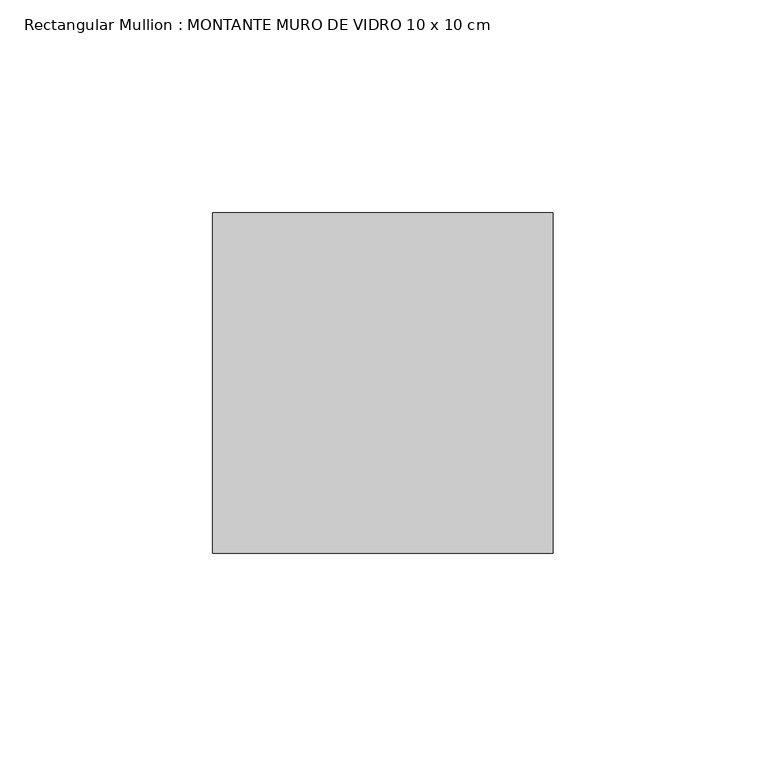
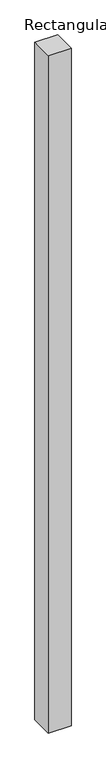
"""IFC4 building model written with IfcOpenShell, lengths in millimetres: member geometry, Rectangular Mullion : MONTANTE MURO DE VIDRO 10 x 10 cm."""

from ifc_helpers import new_model, si_unit, frame, origin, place, context, project, spatial, polyline, outline, extrude, source, transform, mapped, element, save


def rectangular_mullion_montante_muro_de_vidro_10_x_10_cm_6b0fb468(model_context):
    return source(origin(), model_context, "Body", "SweptSolid", [
        extrude(outline(polyline([(0.0, 40.0), (0.0, -40.0), (-80.0, -40.0), (-80.0, 40.0), (0.0, 40.0)])), frame((0.0, 0.0, -2500.0), z_axis=(0.0, 0.0, 1.0), x_axis=(1.0, 0.0, 0.0)), (0.0, 0.0, 1.0), 2500.0),
    ])


if __name__ == "__main__":
    model = new_model("IFC4")
    model_context = context("Model", 3, world=origin())
    ifc_project = project(units=[si_unit("LENGTHUNIT", "METRE", prefix="MILLI")], contexts=[model_context])
    site = spatial("IfcSite", under=ifc_project)
    building = spatial("IfcBuilding", under=site)
    placement = place(None, origin())
    rectangular_mullion_montante_muro_de_vidro_10_x_10_cm_shape = rectangular_mullion_montante_muro_de_vidro_10_x_10_cm_6b0fb468(model_context)
    element("IfcMember", 1, ObjectType="Rectangular Mullion : MONTANTE MURO DE VIDRO 10 x 10 cm", at=placement, inside=building, context=model_context, shape_type="MappedRepresentation", body=[
        mapped(rectangular_mullion_montante_muro_de_vidro_10_x_10_cm_shape, transform((0.0, 0.0, 0.0), x_axis=(1.0, 0.0, 0.0), y_axis=(0.0, 1.0, 0.0), z_axis=(0.0, 0.0, 1.0))),
    ])
    save(model, "model.ifc")
